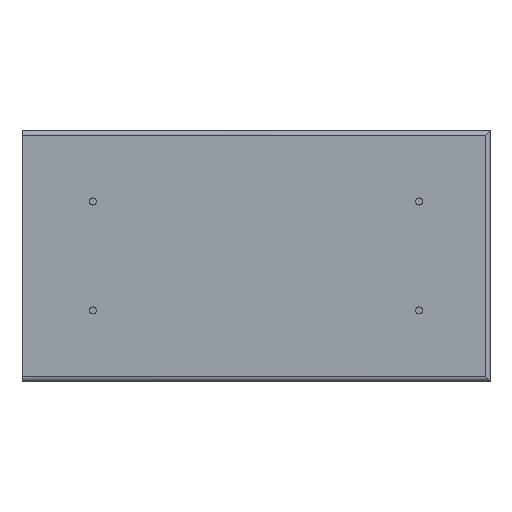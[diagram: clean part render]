
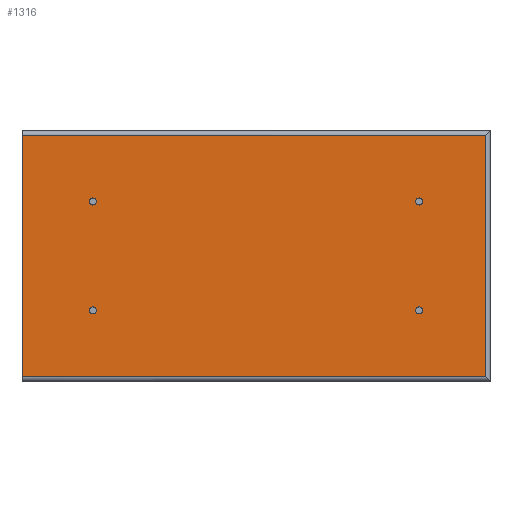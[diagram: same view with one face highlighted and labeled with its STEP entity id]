
A CAD part, top view. The second image highlights one B-rep face of the part: STEP entity #1316.
In plain terms, the highlighted planar face has unit normal (0, 0, 1).
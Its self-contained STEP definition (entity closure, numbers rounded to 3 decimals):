
#1316=ADVANCED_FACE('',(#11880,#11882,#11884,#11886,#11888),#11890,.T.);
#11880=FACE_BOUND('',#11881,.T.);
#11881=EDGE_LOOP('',(#20502,#20503,#20504,#20505));
#11882=FACE_BOUND('',#11883,.T.);
#11883=EDGE_LOOP('',(#20506));
#11884=FACE_BOUND('',#11885,.T.);
#11885=EDGE_LOOP('',(#20507));
#11886=FACE_BOUND('',#11887,.T.);
#11887=EDGE_LOOP('',(#20508));
#11888=FACE_BOUND('',#11889,.T.);
#11889=EDGE_LOOP('',(#20509));
#11890=PLANE('',#11891);
#11891=AXIS2_PLACEMENT_3D('',#11892,#11893,#11894);
#11892=CARTESIAN_POINT('',(0.,0.,30.));
#11893=DIRECTION('',(0.,0.,1.));
#11894=DIRECTION('',(1.,0.,0.));
#20502=ORIENTED_EDGE('',*,*,#27035,.T.);
#20503=ORIENTED_EDGE('',*,*,#27036,.T.);
#20504=ORIENTED_EDGE('',*,*,#27037,.T.);
#20505=ORIENTED_EDGE('',*,*,#27005,.T.);
#20506=ORIENTED_EDGE('',*,*,#27029,.T.);
#20507=ORIENTED_EDGE('',*,*,#27032,.T.);
#20508=ORIENTED_EDGE('',*,*,#27031,.T.);
#20509=ORIENTED_EDGE('',*,*,#27030,.T.);
#27005=EDGE_CURVE('',#30514,#30512,#30515,.T.);
#27029=EDGE_CURVE('',#30553,#30553,#30554,.F.);
#27030=EDGE_CURVE('',#30555,#30555,#30556,.F.);
#27031=EDGE_CURVE('',#30557,#30557,#30558,.F.);
#27032=EDGE_CURVE('',#30559,#30559,#30560,.F.);
#27035=EDGE_CURVE('',#30512,#30563,#30565,.T.);
#27036=EDGE_CURVE('',#30563,#30566,#30567,.T.);
#27037=EDGE_CURVE('',#30566,#30514,#30568,.T.);
#30512=VERTEX_POINT('',#36634);
#30514=VERTEX_POINT('',#36639);
#30515=LINE('',#36640,#36641);
#30553=VERTEX_POINT('',#36734);
#30554=CIRCLE('',#36735,1.621);
#30555=VERTEX_POINT('',#36739);
#30556=CIRCLE('',#36740,1.621);
#30557=VERTEX_POINT('',#36744);
#30558=CIRCLE('',#36745,1.621);
#30559=VERTEX_POINT('',#36749);
#30560=CIRCLE('',#36750,1.621);
#30563=VERTEX_POINT('',#36758);
#30565=LINE('',#36763,#36764);
#30566=VERTEX_POINT('',#36766);
#30567=LINE('',#36767,#36768);
#30568=LINE('',#36770,#36771);
#36634=CARTESIAN_POINT('',(0.,2.,30.));
#36639=CARTESIAN_POINT('',(0.,113.,30.));
#36640=CARTESIAN_POINT('',(0.,113.,30.));
#36641=VECTOR('',#36642,1.);
#36642=DIRECTION('',(0.,-1.,0.));
#36734=CARTESIAN_POINT('',(184.121,82.5,30.));
#36735=AXIS2_PLACEMENT_3D('',#36736,#36737,#36738);
#36736=CARTESIAN_POINT('',(182.5,82.5,30.));
#36737=DIRECTION('',(0.,0.,1.));
#36738=DIRECTION('',(1.,0.,0.));
#36739=CARTESIAN_POINT('',(34.121,82.5,30.));
#36740=AXIS2_PLACEMENT_3D('',#36741,#36742,#36743);
#36741=CARTESIAN_POINT('',(32.5,82.5,30.));
#36742=DIRECTION('',(0.,0.,1.));
#36743=DIRECTION('',(1.,0.,0.));
#36744=CARTESIAN_POINT('',(184.121,32.5,30.));
#36745=AXIS2_PLACEMENT_3D('',#36746,#36747,#36748);
#36746=CARTESIAN_POINT('',(182.5,32.5,30.));
#36747=DIRECTION('',(0.,0.,1.));
#36748=DIRECTION('',(1.,0.,0.));
#36749=CARTESIAN_POINT('',(34.121,32.5,30.));
#36750=AXIS2_PLACEMENT_3D('',#36751,#36752,#36753);
#36751=CARTESIAN_POINT('',(32.5,32.5,30.));
#36752=DIRECTION('',(0.,0.,1.));
#36753=DIRECTION('',(1.,0.,0.));
#36758=CARTESIAN_POINT('',(213.,2.,30.));
#36763=CARTESIAN_POINT('',(0.,2.,30.));
#36764=VECTOR('',#36765,1.);
#36765=DIRECTION('',(1.,0.,0.));
#36766=CARTESIAN_POINT('',(213.,113.,30.));
#36767=CARTESIAN_POINT('',(213.,2.,30.));
#36768=VECTOR('',#36769,1.);
#36769=DIRECTION('',(0.,1.,0.));
#36770=CARTESIAN_POINT('',(213.,113.,30.));
#36771=VECTOR('',#36772,1.);
#36772=DIRECTION('',(-1.,0.,0.));
